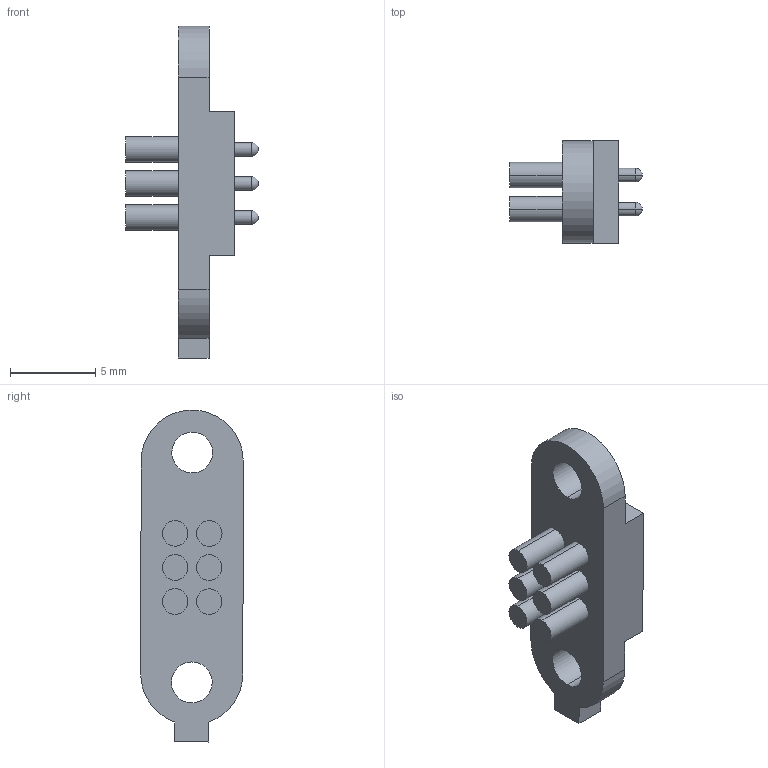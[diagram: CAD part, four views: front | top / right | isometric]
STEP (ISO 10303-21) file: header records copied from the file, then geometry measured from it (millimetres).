
FILE_DESCRIPTION((''),'2;1');
FILE_NAME('ASM0001_ASM','2023-06-07T17:59:22',('USER'),(''),'CREO PARAMETRIC BY PTC INC, 2020154','CREO PARAMETRIC BY PTC INC, 2020154','');
FILE_SCHEMA(('CONFIG_CONTROL_DESIGN'));
Length unit declared in the file: millimetre
Products named in the file (3): H3087-06200A; PRT0001; ASM0001_ASM
Assembly tree (7 placements, depth 2):
  ASM0001_ASM
    H3087-06200A
    PRT0001  x6
Bounding box: 7.8 x 6.02 x 19.5 mm (x, y, z)
Volume: 285.8 mm3; surface area: 616.8 mm2
Topology: 7 solids, 7 shells, 150 faces, 324 edges, 194 vertices
Faces by surface type: cylinder 79, plane 35, cone 12, torus 12, sphere 12
Entity records: 1654 total; most frequent: DIRECTION 306, CARTESIAN_POINT 261, ORIENTED_EDGE 244, AXIS2_PLACEMENT_3D 124, EDGE_CURVE 122, VERTEX_POINT 79, EDGE_LOOP 69, CIRCLE 64
